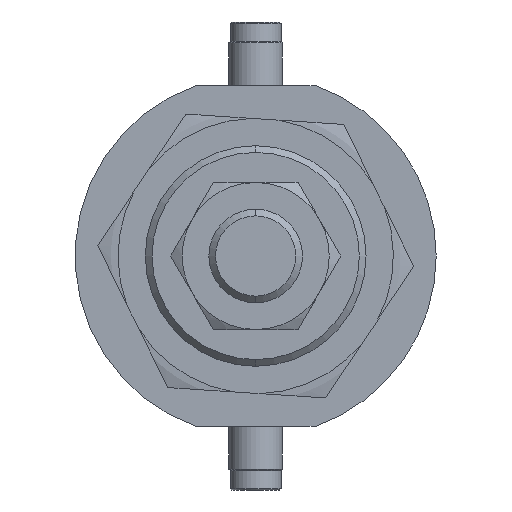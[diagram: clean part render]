
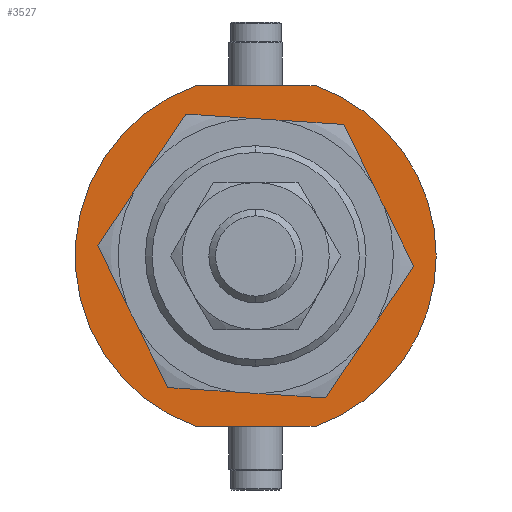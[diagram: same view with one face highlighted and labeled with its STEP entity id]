
A CAD part, left-side view. The second image highlights one B-rep face of the part: STEP entity #3527.
In plain terms, the highlighted planar face has unit normal (-1, 0, 0) as drawn and (0, 1, 0) by its records, which use the part's own axes.
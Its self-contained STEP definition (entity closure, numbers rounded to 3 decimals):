
#1 = CIRCLE ( 'NONE', #3287, 27. ) ;
#22 = VERTEX_POINT ( 'NONE', #479 ) ;
#31 = AXIS2_PLACEMENT_3D ( 'NONE', #3441, #272, #4136 ) ;
#90 = AXIS2_PLACEMENT_3D ( 'NONE', #3771, #1195, #3786 ) ;
#134 = VERTEX_POINT ( 'NONE', #1907 ) ;
#202 = EDGE_CURVE ( 'NONE', #4135, #1817, #3511, .T. ) ;
#272 = DIRECTION ( 'NONE',  ( 0., 1., 0. ) ) ;
#318 = CARTESIAN_POINT ( 'NONE',  ( 0., 4.5, 0. ) ) ;
#344 = CARTESIAN_POINT ( 'NONE',  ( 25.5, 4.5, -8.874 ) ) ;
#376 = ORIENTED_EDGE ( 'NONE', *, *, #1402, .T. ) ;
#453 = ORIENTED_EDGE ( 'NONE', *, *, #202, .T. ) ;
#479 = CARTESIAN_POINT ( 'NONE',  ( 0., 4.5, 16.5 ) ) ;
#620 = DIRECTION ( 'NONE',  ( 0., 1., 0. ) ) ;
#634 = ORIENTED_EDGE ( 'NONE', *, *, #639, .F. ) ;
#639 = EDGE_CURVE ( 'NONE', #1873, #22, #1333, .T. ) ;
#646 = EDGE_CURVE ( 'NONE', #1817, #3532, #1, .T. ) ;
#669 = ORIENTED_EDGE ( 'NONE', *, *, #646, .T. ) ;
#687 = CARTESIAN_POINT ( 'NONE',  ( 0., 4.5, 0. ) ) ;
#900 = LINE ( 'NONE', #2144, #3789 ) ;
#1031 = EDGE_CURVE ( 'NONE', #2476, #4135, #3338, .T. ) ;
#1141 = FACE_OUTER_BOUND ( 'NONE', #2758, .T. ) ;
#1195 = DIRECTION ( 'NONE',  ( 0., 1., 0. ) ) ;
#1207 = AXIS2_PLACEMENT_3D ( 'NONE', #3121, #1540, #3495 ) ;
#1211 = ORIENTED_EDGE ( 'NONE', *, *, #1712, .T. ) ;
#1232 = CARTESIAN_POINT ( 'NONE',  ( 0., 4.5, 0. ) ) ;
#1299 = DIRECTION ( 'NONE',  ( 0., 0., 1. ) ) ;
#1333 = CIRCLE ( 'NONE', #90, 16.5 ) ;
#1402 = EDGE_CURVE ( 'NONE', #3532, #134, #900, .T. ) ;
#1521 = CIRCLE ( 'NONE', #1207, 27. ) ;
#1540 = DIRECTION ( 'NONE',  ( 0., 1., 0. ) ) ;
#1574 = FACE_BOUND ( 'NONE', #1575, .T. ) ;
#1575 = EDGE_LOOP ( 'NONE', ( #3409, #634 ) ) ;
#1647 = CARTESIAN_POINT ( 'NONE',  ( 25.5, 4.5, -8.874 ) ) ;
#1712 = EDGE_CURVE ( 'NONE', #134, #2476, #1521, .T. ) ;
#1817 = VERTEX_POINT ( 'NONE', #1647 ) ;
#1873 = VERTEX_POINT ( 'NONE', #2947 ) ;
#1890 = CIRCLE ( 'NONE', #2850, 16.5 ) ;
#1907 = CARTESIAN_POINT ( 'NONE',  ( -25.5, 4.5, 8.874 ) ) ;
#2144 = CARTESIAN_POINT ( 'NONE',  ( -25.5, 4.5, -8.874 ) ) ;
#2155 = DIRECTION ( 'NONE',  ( 0., 0., 1. ) ) ;
#2198 = DIRECTION ( 'NONE',  ( 0., 0., -1. ) ) ;
#2243 = PLANE ( 'NONE',  #3414 ) ;
#2476 = VERTEX_POINT ( 'NONE', #3879 ) ;
#2644 = VECTOR ( 'NONE', #2198, 1000. ) ;
#2758 = EDGE_LOOP ( 'NONE', ( #669, #376, #1211, #2785, #453 ) ) ;
#2785 = ORIENTED_EDGE ( 'NONE', *, *, #1031, .T. ) ;
#2850 = AXIS2_PLACEMENT_3D ( 'NONE', #687, #3565, #1299 ) ;
#2947 = CARTESIAN_POINT ( 'NONE',  ( 0., 4.5, -16.5 ) ) ;
#3121 = CARTESIAN_POINT ( 'NONE',  ( 0., 4.5, 0. ) ) ;
#3186 = DIRECTION ( 'NONE',  ( 0., 1., 0. ) ) ;
#3254 = EDGE_CURVE ( 'NONE', #22, #1873, #1890, .T. ) ;
#3287 = AXIS2_PLACEMENT_3D ( 'NONE', #1232, #620, #4128 ) ;
#3338 = CIRCLE ( 'NONE', #31, 27. ) ;
#3409 = ORIENTED_EDGE ( 'NONE', *, *, #3254, .F. ) ;
#3414 = AXIS2_PLACEMENT_3D ( 'NONE', #318, #3186, #3525 ) ;
#3441 = CARTESIAN_POINT ( 'NONE',  ( 0., 4.5, 0. ) ) ;
#3495 = DIRECTION ( 'NONE',  ( 0., 0., 1. ) ) ;
#3511 = LINE ( 'NONE', #344, #2644 ) ;
#3525 = DIRECTION ( 'NONE',  ( 0., 0., 1. ) ) ;
#3527 = ADVANCED_FACE ( 'NONE', ( #1574, #1141 ), #2243, .T. ) ;
#3532 = VERTEX_POINT ( 'NONE', #4116 ) ;
#3565 = DIRECTION ( 'NONE',  ( 0., 1., 0. ) ) ;
#3771 = CARTESIAN_POINT ( 'NONE',  ( 0., 4.5, 0. ) ) ;
#3786 = DIRECTION ( 'NONE',  ( 0., 0., 1. ) ) ;
#3789 = VECTOR ( 'NONE', #2155, 1000. ) ;
#3879 = CARTESIAN_POINT ( 'NONE',  ( 0., 4.5, 27. ) ) ;
#3901 = CARTESIAN_POINT ( 'NONE',  ( 25.5, 4.5, 8.874 ) ) ;
#4116 = CARTESIAN_POINT ( 'NONE',  ( -25.5, 4.5, -8.874 ) ) ;
#4128 = DIRECTION ( 'NONE',  ( 0., 0., 1. ) ) ;
#4135 = VERTEX_POINT ( 'NONE', #3901 ) ;
#4136 = DIRECTION ( 'NONE',  ( 0., 0., 1. ) ) ;
